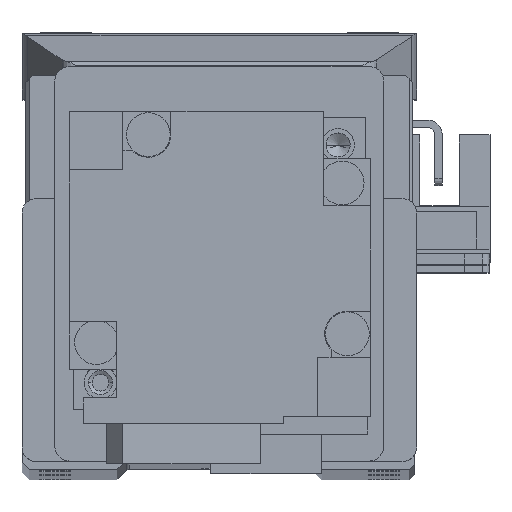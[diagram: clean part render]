
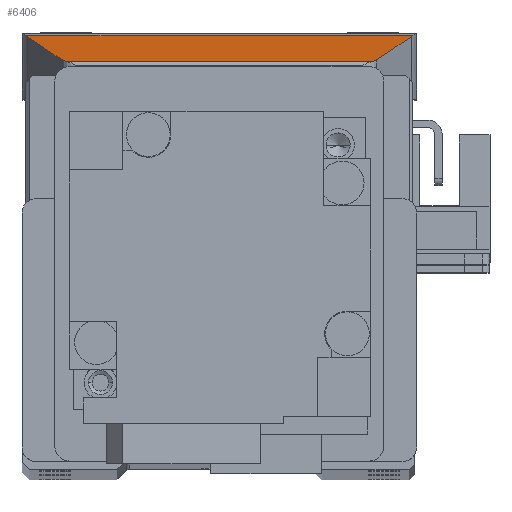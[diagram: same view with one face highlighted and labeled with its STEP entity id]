
A CAD part, top view. The second image highlights one B-rep face of the part: STEP entity #6406.
In plain terms, the highlighted planar face has unit normal (0, 0.966, 0.258).
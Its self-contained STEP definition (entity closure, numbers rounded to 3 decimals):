
#437 = EDGE_CURVE ( 'NONE', #14779, #22506, #9400, .T. ) ;
#568 = VERTEX_POINT ( 'NONE', #1529 ) ;
#705 = VERTEX_POINT ( 'NONE', #17003 ) ;
#1529 = CARTESIAN_POINT ( 'NONE',  ( -26.285, 49.723, 44.788 ) ) ;
#1536 = CARTESIAN_POINT ( 'NONE',  ( -14.891, 42.127, 73.273 ) ) ;
#2102 = EDGE_CURVE ( 'NONE', #568, #15973, #27338, .T. ) ;
#2566 = EDGE_CURVE ( 'NONE', #14779, #14275, #34119, .T. ) ;
#2802 = CARTESIAN_POINT ( 'NONE',  ( -21.36, 46.44, 57.101 ) ) ;
#3047 = CARTESIAN_POINT ( 'NONE',  ( -20.806, 46.299, 57.629 ) ) ;
#3448 = CARTESIAN_POINT ( 'NONE',  ( -26.477, 49.862, 44.266 ) ) ;
#3738 = VERTEX_POINT ( 'NONE', #13473 ) ;
#3790 = CARTESIAN_POINT ( 'NONE',  ( 21.909, 46.806, 55.728 ) ) ;
#4464 = DIRECTION ( 'NONE',  ( 0., 0.258, -0.966 ) ) ;
#4923 = DIRECTION ( 'NONE',  ( 0.361, 0.24, -0.901 ) ) ;
#5600 = ORIENTED_EDGE ( 'NONE', *, *, #27953, .T. ) ;
#5675 = CARTESIAN_POINT ( 'NONE',  ( 27., 49.862, 44.266 ) ) ;
#6244 = CARTESIAN_POINT ( 'NONE',  ( -26.418, 49.815, 44.442 ) ) ;
#6406 = ADVANCED_FACE ( 'NONE', ( #20506 ), #15621, .F. ) ;
#7540 = VECTOR ( 'NONE', #4923, 1000. ) ;
#8823 = ORIENTED_EDGE ( 'NONE', *, *, #2566, .F. ) ;
#9150 = EDGE_CURVE ( 'NONE', #12520, #568, #22685, .T. ) ;
#9400 =( BOUNDED_CURVE ( )  B_SPLINE_CURVE ( 3, ( #18709, #18826, #21768, #24687 ),
 .UNSPECIFIED., .F., .F. ) 
 B_SPLINE_CURVE_WITH_KNOTS ( ( 4, 4 ),
 ( 3.761, 4.332 ),
 .UNSPECIFIED. ) 
 CURVE ( )  GEOMETRIC_REPRESENTATION_ITEM ( )  RATIONAL_B_SPLINE_CURVE ( ( 1., 0.973, 0.973, 1. ) ) 
 REPRESENTATION_ITEM ( '' )  );
#10720 = AXIS2_PLACEMENT_3D ( 'NONE', #13057, #21796, #4464 ) ;
#11136 =( BOUNDED_CURVE ( )  B_SPLINE_CURVE ( 3, ( #21978, #16326, #16586, #27997 ),
 .UNSPECIFIED., .F., .F. ) 
 B_SPLINE_CURVE_WITH_KNOTS ( ( 4, 4 ),
 ( 4.332, 4.388 ),
 .UNSPECIFIED. ) 
 CURVE ( )  GEOMETRIC_REPRESENTATION_ITEM ( )  RATIONAL_B_SPLINE_CURVE ( ( 1., 1., 1., 1. ) ) 
 REPRESENTATION_ITEM ( '' )  );
#12520 = VERTEX_POINT ( 'NONE', #3448 ) ;
#13057 = CARTESIAN_POINT ( 'NONE',  ( 27., 46.299, 57.629 ) ) ;
#13369 = ORIENTED_EDGE ( 'NONE', *, *, #35441, .T. ) ;
#13473 = CARTESIAN_POINT ( 'NONE',  ( 26.285, 49.723, 44.788 ) ) ;
#13949 = ORIENTED_EDGE ( 'NONE', *, *, #437, .T. ) ;
#14275 = VERTEX_POINT ( 'NONE', #19573 ) ;
#14779 = VERTEX_POINT ( 'NONE', #25201 ) ;
#15621 = PLANE ( 'NONE',  #10720 ) ;
#15973 = VERTEX_POINT ( 'NONE', #22562 ) ;
#16326 = CARTESIAN_POINT ( 'NONE',  ( 26.354, 49.769, 44.616 ) ) ;
#16586 = CARTESIAN_POINT ( 'NONE',  ( 26.418, 49.815, 44.442 ) ) ;
#17003 = CARTESIAN_POINT ( 'NONE',  ( 26.477, 49.862, 44.266 ) ) ;
#17262 = VECTOR ( 'NONE', #33693, 1000. ) ;
#17856 = EDGE_CURVE ( 'NONE', #705, #12520, #32920, .T. ) ;
#18143 = LINE ( 'NONE', #3790, #7540 ) ;
#18709 = CARTESIAN_POINT ( 'NONE',  ( 20.806, 46.299, 57.629 ) ) ;
#18826 = CARTESIAN_POINT ( 'NONE',  ( 21.121, 46.359, 57.405 ) ) ;
#19573 = CARTESIAN_POINT ( 'NONE',  ( -20.806, 46.299, 57.629 ) ) ;
#20356 = VECTOR ( 'NONE', #30367, 1000. ) ;
#20458 = CARTESIAN_POINT ( 'NONE',  ( -21.121, 46.359, 57.405 ) ) ;
#20506 = FACE_OUTER_BOUND ( 'NONE', #34724, .T. ) ;
#20578 = CARTESIAN_POINT ( 'NONE',  ( -21.503, 46.535, 56.743 ) ) ;
#21072 = ORIENTED_EDGE ( 'NONE', *, *, #25330, .T. ) ;
#21768 = CARTESIAN_POINT ( 'NONE',  ( 21.36, 46.44, 57.101 ) ) ;
#21796 = DIRECTION ( 'NONE',  ( 0., -0.966, -0.258 ) ) ;
#21978 = CARTESIAN_POINT ( 'NONE',  ( 26.285, 49.723, 44.788 ) ) ;
#22506 = VERTEX_POINT ( 'NONE', #23773 ) ;
#22562 = CARTESIAN_POINT ( 'NONE',  ( -21.503, 46.535, 56.743 ) ) ;
#22685 =( BOUNDED_CURVE ( )  B_SPLINE_CURVE ( 3, ( #23447, #6244, #32287, #29718 ),
 .UNSPECIFIED., .F., .F. ) 
 B_SPLINE_CURVE_WITH_KNOTS ( ( 4, 4 ),
 ( 1.896, 1.951 ),
 .UNSPECIFIED. ) 
 CURVE ( )  GEOMETRIC_REPRESENTATION_ITEM ( )  RATIONAL_B_SPLINE_CURVE ( ( 1., 1., 1., 1. ) ) 
 REPRESENTATION_ITEM ( '' )  );
#23292 = VECTOR ( 'NONE', #32097, 1000. ) ;
#23447 = CARTESIAN_POINT ( 'NONE',  ( -26.477, 49.862, 44.266 ) ) ;
#23773 = CARTESIAN_POINT ( 'NONE',  ( 21.503, 46.535, 56.743 ) ) ;
#24018 = ORIENTED_EDGE ( 'NONE', *, *, #9150, .T. ) ;
#24687 = CARTESIAN_POINT ( 'NONE',  ( 21.503, 46.535, 56.743 ) ) ;
#25076 = CARTESIAN_POINT ( 'NONE',  ( 27., 46.299, 57.629 ) ) ;
#25201 = CARTESIAN_POINT ( 'NONE',  ( 20.806, 46.299, 57.629 ) ) ;
#25330 = EDGE_CURVE ( 'NONE', #3738, #705, #11136, .T. ) ;
#27338 = LINE ( 'NONE', #1536, #17262 ) ;
#27953 = EDGE_CURVE ( 'NONE', #15973, #14275, #28281, .T. ) ;
#27997 = CARTESIAN_POINT ( 'NONE',  ( 26.477, 49.862, 44.266 ) ) ;
#28281 =( BOUNDED_CURVE ( )  B_SPLINE_CURVE ( 3, ( #20578, #2802, #20458, #3047 ),
 .UNSPECIFIED., .F., .F. ) 
 B_SPLINE_CURVE_WITH_KNOTS ( ( 4, 4 ),
 ( 1.951, 2.523 ),
 .UNSPECIFIED. ) 
 CURVE ( )  GEOMETRIC_REPRESENTATION_ITEM ( )  RATIONAL_B_SPLINE_CURVE ( ( 1., 0.973, 0.973, 1. ) ) 
 REPRESENTATION_ITEM ( '' )  );
#28490 = ORIENTED_EDGE ( 'NONE', *, *, #2102, .T. ) ;
#29718 = CARTESIAN_POINT ( 'NONE',  ( -26.285, 49.723, 44.788 ) ) ;
#30283 = ORIENTED_EDGE ( 'NONE', *, *, #17856, .T. ) ;
#30367 = DIRECTION ( 'NONE',  ( -1., 0., 0. ) ) ;
#32097 = DIRECTION ( 'NONE',  ( -1., 0., 0. ) ) ;
#32287 = CARTESIAN_POINT ( 'NONE',  ( -26.354, 49.769, 44.616 ) ) ;
#32920 = LINE ( 'NONE', #5675, #23292 ) ;
#33693 = DIRECTION ( 'NONE',  ( 0.361, -0.24, 0.901 ) ) ;
#34119 = LINE ( 'NONE', #25076, #20356 ) ;
#34724 = EDGE_LOOP ( 'NONE', ( #13369, #21072, #30283, #24018, #28490, #5600, #8823, #13949 ) ) ;
#35441 = EDGE_CURVE ( 'NONE', #22506, #3738, #18143, .T. ) ;
